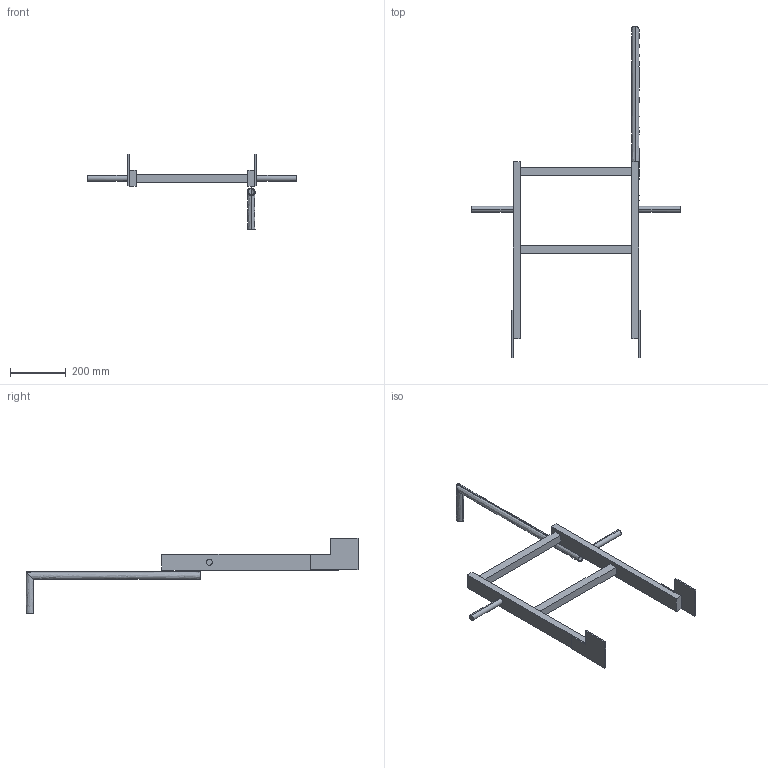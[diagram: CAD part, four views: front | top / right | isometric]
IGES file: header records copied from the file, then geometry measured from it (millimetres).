
Start section:  PTC IGES file: 52331454.igs
Global section: file name: 52331454.igs; native system: Creo Parametric by PTC Inc.; preprocessor: 2022162; author: wep; organization: Unknown; date: 20241218.093548; units: millimetre
Bounding box: 750 x 1190.45 x 271.35 mm (x, y, z)
Surface area: 487708.9 mm2 (no closed solid volume)
Topology: 0 solids, 0 shells, 52 faces, 256 edges, 256 vertices
Faces by surface type: bspline 40, revolution 12
